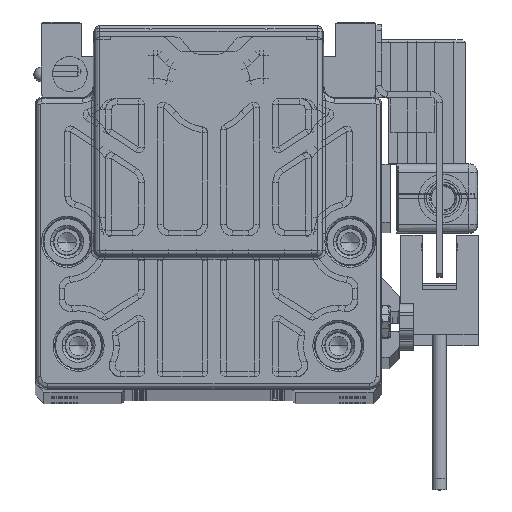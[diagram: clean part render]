
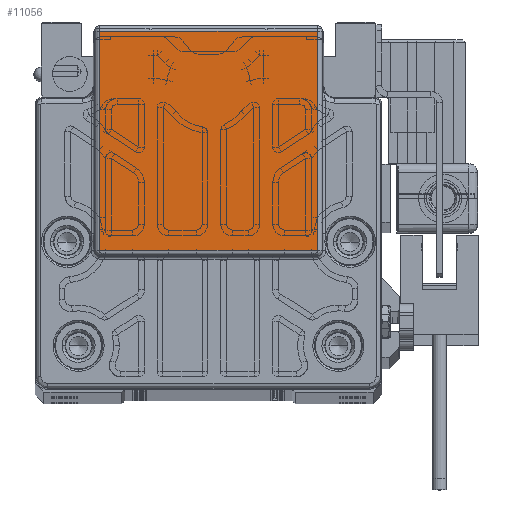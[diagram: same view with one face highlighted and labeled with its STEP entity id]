
A CAD part, top view. The second image highlights one B-rep face of the part: STEP entity #11056.
In plain terms, the highlighted planar face has unit normal (0, 0, 1) as drawn and (0, 0, -1) by its records, which use the part's own axes.
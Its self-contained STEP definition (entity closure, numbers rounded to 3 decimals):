
#3103 = DIRECTION ( 'NONE',  ( 0., -1., 0. ) ) ;
#3687 = DIRECTION ( 'NONE',  ( 1., 0., 0. ) ) ;
#5786 = FACE_OUTER_BOUND ( 'NONE', #23223, .T. ) ;
#8436 = EDGE_CURVE ( 'NONE', #18784, #74313, #80269, .T. ) ;
#11056 = ADVANCED_FACE ( 'NONE', ( #5786 ), #51625, .T. ) ;
#18784 = VERTEX_POINT ( 'NONE', #26092 ) ;
#23152 = CARTESIAN_POINT ( 'NONE',  ( 18.808, 24.518, -143. ) ) ;
#23223 = EDGE_LOOP ( 'NONE', ( #77702, #30275, #24675, #25596 ) ) ;
#23872 = CARTESIAN_POINT ( 'NONE',  ( 19., 62.447, -143. ) ) ;
#24675 = ORIENTED_EDGE ( 'NONE', *, *, #60424, .F. ) ;
#25596 = ORIENTED_EDGE ( 'NONE', *, *, #8436, .T. ) ;
#26092 = CARTESIAN_POINT ( 'NONE',  ( -18.808, 62.447, -143. ) ) ;
#27518 = VECTOR ( 'NONE', #82690, 1000. ) ;
#30199 = CARTESIAN_POINT ( 'NONE',  ( -18.808, 24.518, -143. ) ) ;
#30275 = ORIENTED_EDGE ( 'NONE', *, *, #59828, .F. ) ;
#30740 = VECTOR ( 'NONE', #3687, 1000. ) ;
#31437 = CARTESIAN_POINT ( 'NONE',  ( 19., 24.5, -143. ) ) ;
#35078 = CARTESIAN_POINT ( 'NONE',  ( -18.808, 31., -143. ) ) ;
#38090 = LINE ( 'NONE', #82282, #27518 ) ;
#38335 = CARTESIAN_POINT ( 'NONE',  ( 18.808, 62.447, -143. ) ) ;
#38705 = VERTEX_POINT ( 'NONE', #23152 ) ;
#44899 = DIRECTION ( 'NONE',  ( 0., 1., 0. ) ) ;
#48528 = LINE ( 'NONE', #35078, #75740 ) ;
#49858 = EDGE_CURVE ( 'NONE', #38705, #74313, #38090, .T. ) ;
#51625 = PLANE ( 'NONE',  #70972 ) ;
#56696 = DIRECTION ( 'NONE',  ( 0., 0., -1. ) ) ;
#57159 = VERTEX_POINT ( 'NONE', #30199 ) ;
#57479 = DIRECTION ( 'NONE',  ( 1., 0., 0. ) ) ;
#58210 = VECTOR ( 'NONE', #57479, 1000. ) ;
#59828 = EDGE_CURVE ( 'NONE', #57159, #38705, #65043, .T. ) ;
#60424 = EDGE_CURVE ( 'NONE', #18784, #57159, #48528, .T. ) ;
#63800 = CARTESIAN_POINT ( 'NONE',  ( 19., 24.518, -143. ) ) ;
#65043 = LINE ( 'NONE', #63800, #58210 ) ;
#70972 = AXIS2_PLACEMENT_3D ( 'NONE', #31437, #56696, #44899 ) ;
#74313 = VERTEX_POINT ( 'NONE', #38335 ) ;
#75740 = VECTOR ( 'NONE', #3103, 1000. ) ;
#77702 = ORIENTED_EDGE ( 'NONE', *, *, #49858, .F. ) ;
#80269 = LINE ( 'NONE', #23872, #30740 ) ;
#82282 = CARTESIAN_POINT ( 'NONE',  ( 18.808, 24.5, -143. ) ) ;
#82690 = DIRECTION ( 'NONE',  ( 0., 1., 0. ) ) ;
